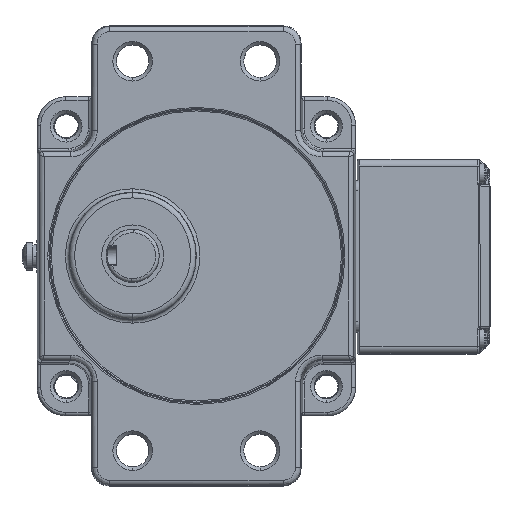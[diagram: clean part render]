
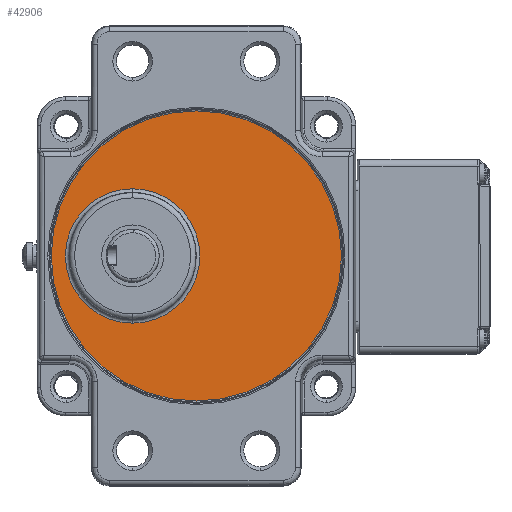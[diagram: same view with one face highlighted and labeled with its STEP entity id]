
A CAD part, top view. The second image highlights one B-rep face of the part: STEP entity #42906.
In plain terms, the highlighted planar face has unit normal (0, 0, 1) as drawn and (0, 0, -1) by its records, which use the part's own axes.
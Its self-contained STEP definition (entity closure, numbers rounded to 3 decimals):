
#3326 = DIRECTION ( 'NONE',  ( 0., 0., 1. ) ) ;
#6181 = CIRCLE ( 'NONE', #46043, 18.986 ) ;
#6454 = AXIS2_PLACEMENT_3D ( 'NONE', #67408, #35605, #8474 ) ;
#6540 = ORIENTED_EDGE ( 'NONE', *, *, #66534, .F. ) ;
#7773 = DIRECTION ( 'NONE',  ( -1., 0., 0. ) ) ;
#8474 = DIRECTION ( 'NONE',  ( 1., 0., 0. ) ) ;
#9460 = EDGE_LOOP ( 'NONE', ( #6540, #42033 ) ) ;
#12475 = CARTESIAN_POINT ( 'NONE',  ( 40.991, 0., -65. ) ) ;
#13226 = VERTEX_POINT ( 'NONE', #12475 ) ;
#13648 = FACE_OUTER_BOUND ( 'NONE', #57279, .T. ) ;
#17746 = DIRECTION ( 'NONE',  ( 0., 0., -1. ) ) ;
#21478 = DIRECTION ( 'NONE',  ( 0., 0., -1. ) ) ;
#21831 = DIRECTION ( 'NONE',  ( 1., 0., 0. ) ) ;
#25829 = AXIS2_PLACEMENT_3D ( 'NONE', #51004, #30250, #62408 ) ;
#28216 = CARTESIAN_POINT ( 'NONE',  ( 18.986, 18., -65. ) ) ;
#28587 = VERTEX_POINT ( 'NONE', #61685 ) ;
#29717 = DIRECTION ( 'NONE',  ( 1., 0., 0. ) ) ;
#30250 = DIRECTION ( 'NONE',  ( 0., 0., -1. ) ) ;
#35605 = DIRECTION ( 'NONE',  ( 0., 0., -1. ) ) ;
#39206 = ORIENTED_EDGE ( 'NONE', *, *, #50798, .T. ) ;
#40354 = AXIS2_PLACEMENT_3D ( 'NONE', #45970, #17746, #7773 ) ;
#40772 = CARTESIAN_POINT ( 'NONE',  ( 0., 0., -65. ) ) ;
#41478 = FACE_BOUND ( 'NONE', #9460, .T. ) ;
#41522 = CIRCLE ( 'NONE', #40354, 40.991 ) ;
#41952 = EDGE_CURVE ( 'NONE', #28587, #13226, #41522, .T. ) ;
#42033 = ORIENTED_EDGE ( 'NONE', *, *, #51671, .F. ) ;
#42906 = ADVANCED_FACE ( 'NONE', ( #13648, #41478 ), #63609, .F. ) ;
#45970 = CARTESIAN_POINT ( 'NONE',  ( 0., 0., -65. ) ) ;
#46043 = AXIS2_PLACEMENT_3D ( 'NONE', #60029, #21478, #21831 ) ;
#47507 = VERTEX_POINT ( 'NONE', #28216 ) ;
#50798 = EDGE_CURVE ( 'NONE', #13226, #28587, #53160, .T. ) ;
#51004 = CARTESIAN_POINT ( 'NONE',  ( 0., 18., -65. ) ) ;
#51671 = EDGE_CURVE ( 'NONE', #54666, #47507, #58920, .T. ) ;
#51901 = AXIS2_PLACEMENT_3D ( 'NONE', #40772, #3326, #29717 ) ;
#53160 = CIRCLE ( 'NONE', #6454, 40.991 ) ;
#54666 = VERTEX_POINT ( 'NONE', #62660 ) ;
#57279 = EDGE_LOOP ( 'NONE', ( #66287, #39206 ) ) ;
#58920 = CIRCLE ( 'NONE', #25829, 18.986 ) ;
#60029 = CARTESIAN_POINT ( 'NONE',  ( 0., 18., -65. ) ) ;
#61685 = CARTESIAN_POINT ( 'NONE',  ( -40.991, 0., -65. ) ) ;
#62408 = DIRECTION ( 'NONE',  ( -1., 0., 0. ) ) ;
#62660 = CARTESIAN_POINT ( 'NONE',  ( -18.986, 18., -65. ) ) ;
#63609 = PLANE ( 'NONE',  #51901 ) ;
#66287 = ORIENTED_EDGE ( 'NONE', *, *, #41952, .T. ) ;
#66534 = EDGE_CURVE ( 'NONE', #47507, #54666, #6181, .T. ) ;
#67408 = CARTESIAN_POINT ( 'NONE',  ( 0., 0., -65. ) ) ;
